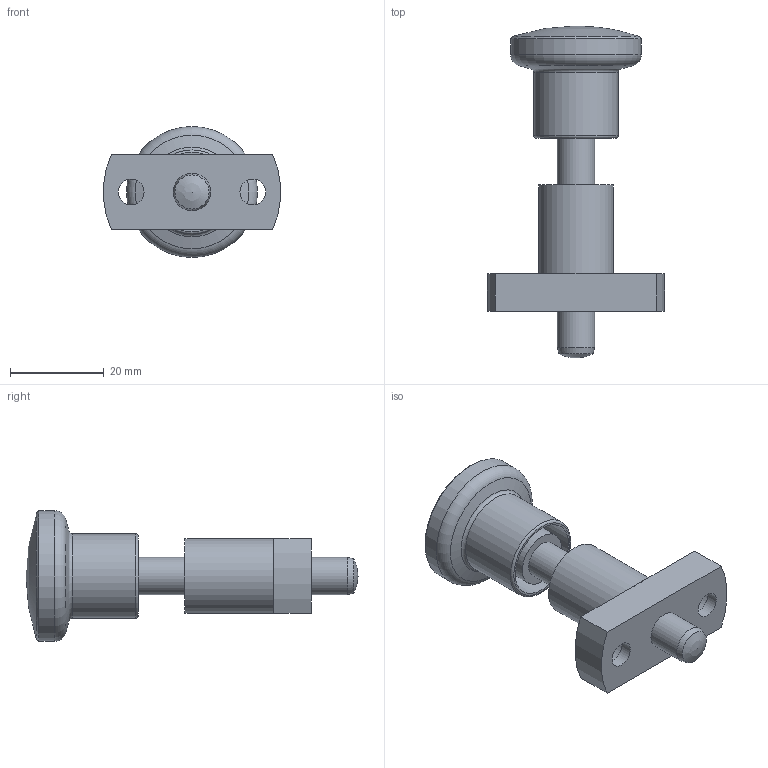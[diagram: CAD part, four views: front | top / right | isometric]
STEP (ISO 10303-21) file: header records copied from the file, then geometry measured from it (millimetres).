
FILE_DESCRIPTION( ( 'STEP AP203' ), '1' );
FILE_NAME( 'C:/Temp/Ganter_Step_05_03_2020/data/3_1/gn817_3/gn_817_3_b/Indexing plunger GN 817.3-8-20-B (activated).stp', '2020-03-12T09:02:59', ( 'License CC BY-ND 4.0' ), ( 'CADENAS' ), ' ', 'PARTsolutions', ' ' );
FILE_SCHEMA( ( 'CONFIG_CONTROL_DESIGN' ) );
Length unit declared in the file: millimetre
Products named in the file (3): Indexing plunger GN 817.3-8-20-B (activated); _Indexing plunger GN 817.3-8-20-B betaetigt-2; _Indexing plunger GN 817.3-8-20-B (activated)-1
Assembly tree (2 placements, depth 2):
  Indexing plunger GN 817.3-8-20-B (activated)
    _Indexing plunger GN 817.3-8-20-B betaetigt-2
    _Indexing plunger GN 817.3-8-20-B (activated)-1
Bounding box: 37.86 x 71 x 28 mm (x, y, z)
Volume: 15175.3 mm3; surface area: 9205.8 mm2
Topology: 2 solids, 2 shells, 40 faces, 77 edges, 48 vertices
Faces by surface type: cylinder 17, plane 15, cone 3, torus 3, sphere 2
Full cylindrical faces by diameter (mm): 5.5 x2, 8 x4, 9 x2, 9.4 x2, 11.8 x1, 16 x1, 16.1 x1, 18 x1, 28 x1
Entity records: 998 total; most frequent: DIRECTION 176, CARTESIAN_POINT 139, ORIENTED_EDGE 100, AXIS2_PLACEMENT_3D 83, EDGE_LOOP 76, FACE_OUTER_BOUND 58, EDGE_CURVE 50, VERTEX_POINT 46
